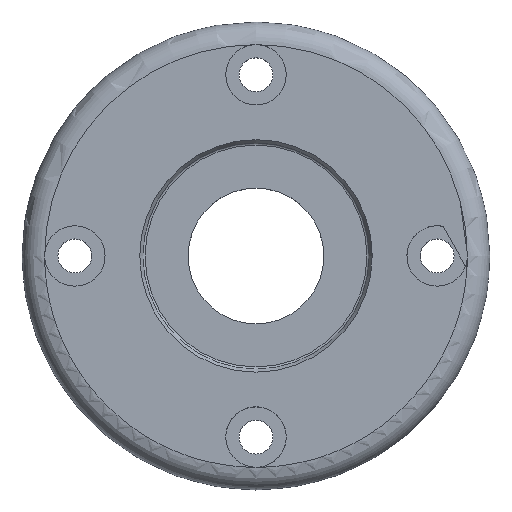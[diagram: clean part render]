
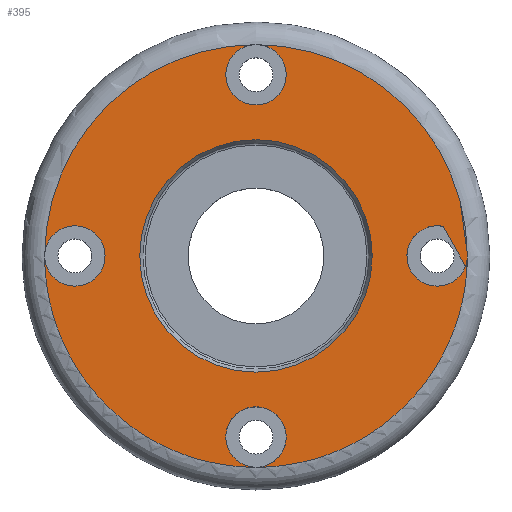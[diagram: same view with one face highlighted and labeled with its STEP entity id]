
A CAD part, top view. The second image highlights one B-rep face of the part: STEP entity #395.
In plain terms, the highlighted planar face has unit normal (0, 0, 1).
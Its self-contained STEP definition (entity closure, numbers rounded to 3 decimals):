
#58=FACE_BOUND('',#110,.T.);
#71=PLANE('',#455);
#82=FACE_OUTER_BOUND('',#109,.T.);
#109=EDGE_LOOP('',(#291,#292,#293,#294,#295,#296,#297,#298,#299,#300,#301));
#110=EDGE_LOOP('',(#302));
#151=CIRCLE('',#451,28.);
#152=CIRCLE('',#452,28.);
#153=CIRCLE('',#453,28.);
#154=CIRCLE('',#454,28.);
#155=CIRCLE('',#456,4.);
#156=CIRCLE('',#457,4.);
#157=CIRCLE('',#458,4.);
#158=CIRCLE('',#459,4.);
#159=CIRCLE('',#460,4.);
#160=CIRCLE('',#461,4.);
#161=CIRCLE('',#462,4.);
#162=CIRCLE('',#463,15.404);
#191=VERTEX_POINT('',#676);
#192=VERTEX_POINT('',#678);
#193=VERTEX_POINT('',#680);
#194=VERTEX_POINT('',#682);
#195=VERTEX_POINT('',#686);
#196=VERTEX_POINT('',#689);
#197=VERTEX_POINT('',#692);
#198=VERTEX_POINT('',#696);
#228=EDGE_CURVE('',#191,#192,#151,.T.);
#229=EDGE_CURVE('',#192,#193,#152,.T.);
#230=EDGE_CURVE('',#193,#194,#153,.T.);
#231=EDGE_CURVE('',#194,#191,#154,.T.);
#232=EDGE_CURVE('',#192,#195,#155,.T.);
#233=EDGE_CURVE('',#195,#192,#156,.T.);
#234=EDGE_CURVE('',#191,#196,#157,.T.);
#235=EDGE_CURVE('',#196,#191,#158,.T.);
#236=EDGE_CURVE('',#194,#197,#159,.T.);
#237=EDGE_CURVE('',#197,#194,#160,.T.);
#238=EDGE_CURVE('',#193,#193,#161,.T.);
#239=EDGE_CURVE('',#198,#198,#162,.T.);
#291=ORIENTED_EDGE('',*,*,#232,.T.);
#292=ORIENTED_EDGE('',*,*,#233,.T.);
#293=ORIENTED_EDGE('',*,*,#228,.F.);
#294=ORIENTED_EDGE('',*,*,#234,.T.);
#295=ORIENTED_EDGE('',*,*,#235,.T.);
#296=ORIENTED_EDGE('',*,*,#231,.F.);
#297=ORIENTED_EDGE('',*,*,#236,.T.);
#298=ORIENTED_EDGE('',*,*,#237,.T.);
#299=ORIENTED_EDGE('',*,*,#230,.F.);
#300=ORIENTED_EDGE('',*,*,#238,.T.);
#301=ORIENTED_EDGE('',*,*,#229,.F.);
#302=ORIENTED_EDGE('',*,*,#239,.F.);
#395=ADVANCED_FACE('',(#82,#58),#71,.T.);
#451=AXIS2_PLACEMENT_3D('',#679,#531,#532);
#452=AXIS2_PLACEMENT_3D('',#681,#533,#534);
#453=AXIS2_PLACEMENT_3D('',#683,#535,#536);
#454=AXIS2_PLACEMENT_3D('',#684,#537,#538);
#455=AXIS2_PLACEMENT_3D('',#685,#539,#540);
#456=AXIS2_PLACEMENT_3D('',#687,#541,#542);
#457=AXIS2_PLACEMENT_3D('',#688,#543,#544);
#458=AXIS2_PLACEMENT_3D('',#690,#545,#546);
#459=AXIS2_PLACEMENT_3D('',#691,#547,#548);
#460=AXIS2_PLACEMENT_3D('',#693,#549,#550);
#461=AXIS2_PLACEMENT_3D('',#694,#551,#552);
#462=AXIS2_PLACEMENT_3D('',#695,#553,#554);
#463=AXIS2_PLACEMENT_3D('',#697,#555,#556);
#531=DIRECTION('center_axis',(0.,0.,-1.));
#532=DIRECTION('ref_axis',(0.,-1.,0.));
#533=DIRECTION('center_axis',(0.,0.,-1.));
#534=DIRECTION('ref_axis',(0.,-1.,0.));
#535=DIRECTION('center_axis',(0.,0.,-1.));
#536=DIRECTION('ref_axis',(0.,-1.,0.));
#537=DIRECTION('center_axis',(0.,0.,-1.));
#538=DIRECTION('ref_axis',(0.,-1.,0.));
#539=DIRECTION('center_axis',(0.,0.,1.));
#540=DIRECTION('ref_axis',(1.,0.,0.));
#541=DIRECTION('center_axis',(0.,0.,-1.));
#542=DIRECTION('ref_axis',(1.,0.,0.));
#543=DIRECTION('center_axis',(0.,0.,-1.));
#544=DIRECTION('ref_axis',(1.,0.,0.));
#545=DIRECTION('center_axis',(0.,0.,-1.));
#546=DIRECTION('ref_axis',(1.,0.,0.));
#547=DIRECTION('center_axis',(0.,0.,-1.));
#548=DIRECTION('ref_axis',(1.,0.,0.));
#549=DIRECTION('center_axis',(0.,0.,-1.));
#550=DIRECTION('ref_axis',(1.,0.,0.));
#551=DIRECTION('center_axis',(0.,0.,-1.));
#552=DIRECTION('ref_axis',(1.,0.,0.));
#553=DIRECTION('center_axis',(0.,0.,-1.));
#554=DIRECTION('ref_axis',(1.,0.,0.));
#555=DIRECTION('center_axis',(0.,0.,1.));
#556=DIRECTION('ref_axis',(-1.,0.,0.));
#676=CARTESIAN_POINT('',(28.,0.,7.5));
#678=CARTESIAN_POINT('',(0.,-28.,7.5));
#679=CARTESIAN_POINT('Origin',(0.,0.,7.5));
#680=CARTESIAN_POINT('',(-28.,0.,7.5));
#681=CARTESIAN_POINT('Origin',(0.,0.,7.5));
#682=CARTESIAN_POINT('',(0.,28.,7.5));
#683=CARTESIAN_POINT('Origin',(0.,0.,7.5));
#684=CARTESIAN_POINT('Origin',(0.,0.,7.5));
#685=CARTESIAN_POINT('Origin',(0.,15.5,7.5));
#686=CARTESIAN_POINT('',(-4.,-24.,7.5));
#687=CARTESIAN_POINT('Origin',(0.,-24.,7.5));
#688=CARTESIAN_POINT('Origin',(0.,-24.,7.5));
#689=CARTESIAN_POINT('',(20.,0.,7.5));
#690=CARTESIAN_POINT('Origin',(24.,0.,7.5));
#691=CARTESIAN_POINT('Origin',(24.,0.,7.5));
#692=CARTESIAN_POINT('',(-4.,24.,7.5));
#693=CARTESIAN_POINT('Origin',(0.,24.,7.5));
#694=CARTESIAN_POINT('Origin',(0.,24.,7.5));
#695=CARTESIAN_POINT('Origin',(-24.,0.,7.5));
#696=CARTESIAN_POINT('',(15.404,0.,7.5));
#697=CARTESIAN_POINT('Origin',(0.,0.,7.5));
